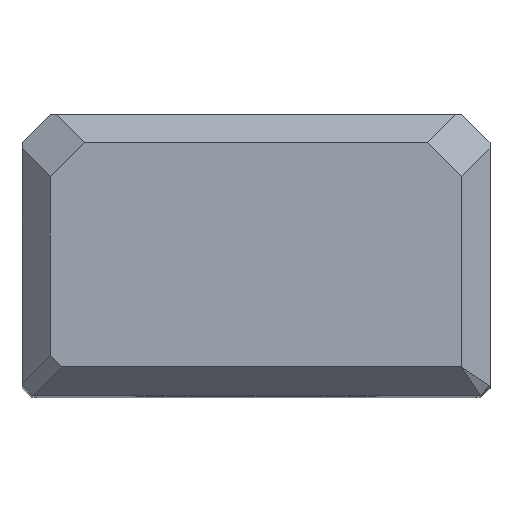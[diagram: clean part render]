
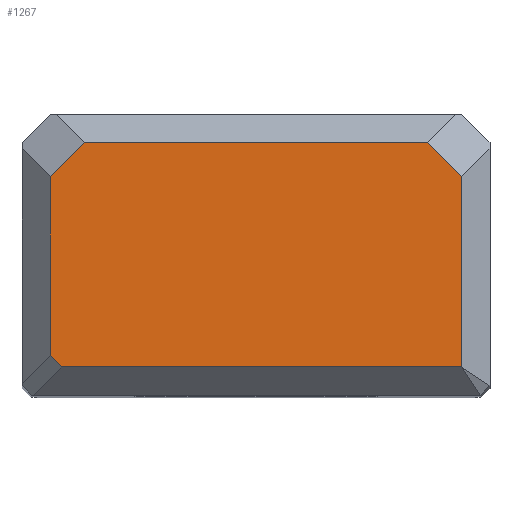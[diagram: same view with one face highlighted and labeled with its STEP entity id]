
A CAD part, top view. The second image highlights one B-rep face of the part: STEP entity #1267.
In plain terms, the highlighted planar face has unit normal (0, 0, 1).
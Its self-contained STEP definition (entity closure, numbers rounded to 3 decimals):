
#141=VERTEX_POINT(' ',#142);
#142=CARTESIAN_POINT('',(22.,-27.,0.));
#143=VERTEX_POINT(' ',#144);
#144=CARTESIAN_POINT('',(-20.775,-27.,0.));
#151=VERTEX_POINT(' ',#152);
#152=CARTESIAN_POINT('',(-22.,-25.775,0.));
#173=VERTEX_POINT(' ',#174);
#174=CARTESIAN_POINT('',(22.,-6.674,0.));
#175=VERTEX_POINT(' ',#176);
#176=CARTESIAN_POINT('',(-18.326,-3.,0.));
#177=VERTEX_POINT(' ',#178);
#178=CARTESIAN_POINT('',(-22.,-6.674,0.));
#179=VERTEX_POINT(' ',#180);
#180=CARTESIAN_POINT('',(18.326,-3.,0.));
#466=LINE('',#467,#468);
#467=CARTESIAN_POINT('',(38.971,-27.,0.));
#468=VECTOR('',#469,1.);
#469=DIRECTION('',(-1.,0.,0.));
#470=EDGE_CURVE(' ',#141,#143,#466,.T.);
#481=LINE('',#482,#483);
#482=CARTESIAN_POINT('',(-23.888,-23.888,0.));
#483=VECTOR('',#484,1.);
#484=DIRECTION('',(0.707,-0.707,0.));
#485=EDGE_CURVE(' ',#143,#151,#481,.F.);
#573=LINE('',#574,#575);
#574=CARTESIAN_POINT('',(22.,16.971,0.));
#575=VECTOR('',#576,1.);
#576=DIRECTION('',(0.,-1.,0.));
#577=EDGE_CURVE(' ',#173,#141,#573,.T.);
#583=LINE('',#584,#585);
#584=CARTESIAN_POINT('',(-7.663,7.663,0.));
#585=VECTOR('',#586,1.);
#586=DIRECTION('',(-0.707,-0.707,0.));
#587=EDGE_CURVE(' ',#177,#175,#583,.F.);
#588=LINE('',#589,#590);
#589=CARTESIAN_POINT('',(-22.,-43.971,0.));
#590=VECTOR('',#591,1.);
#591=DIRECTION('',(0.,1.,0.));
#592=EDGE_CURVE(' ',#151,#177,#588,.T.);
#593=LINE('',#594,#595);
#594=CARTESIAN_POINT('',(7.663,7.663,0.));
#595=VECTOR('',#596,1.);
#596=DIRECTION('',(-0.707,0.707,0.));
#597=EDGE_CURVE(' ',#179,#173,#593,.F.);
#598=LINE('',#599,#600);
#599=CARTESIAN_POINT('',(-38.971,-3.,0.));
#600=VECTOR('',#601,1.);
#601=DIRECTION('',(1.,0.,0.));
#602=EDGE_CURVE(' ',#175,#179,#598,.T.);
#1253=ORIENTED_EDGE('',*,*,#587,.F.);
#1254=ORIENTED_EDGE('',*,*,#592,.F.);
#1255=ORIENTED_EDGE('',*,*,#485,.F.);
#1256=ORIENTED_EDGE('',*,*,#470,.F.);
#1257=ORIENTED_EDGE('',*,*,#577,.F.);
#1258=ORIENTED_EDGE('',*,*,#597,.F.);
#1259=ORIENTED_EDGE('',*,*,#602,.F.);
#1260=EDGE_LOOP('',(#1253,#1254,#1255,#1256,#1257,#1258,#1259));
#1261=FACE_OUTER_BOUND('',#1260,.T.);
#1262=PLANE('',#1263);
#1263=AXIS2_PLACEMENT_3D('',#1264,#1265,#1266);
#1264=CARTESIAN_POINT('',(25.,0.,0.));
#1265=DIRECTION('',(0.,0.,1.));
#1266=DIRECTION('',(-1.,0.,0.));
#1267=ADVANCED_FACE('',(#1261),#1262,.T.);
